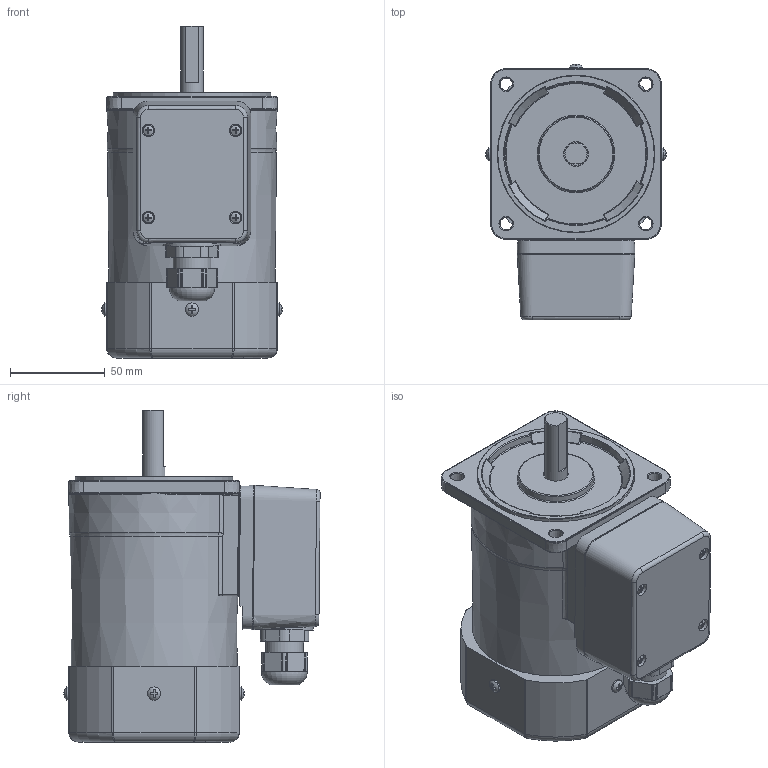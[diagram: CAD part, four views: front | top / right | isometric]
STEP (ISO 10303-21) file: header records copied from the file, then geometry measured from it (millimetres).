
FILE_DESCRIPTION (( 'STEP AP214' ), '1' );
FILE_NAME ('9IDD¤±-90F-AT.STEP', '2025-01-13T02:55:17', ( '' ), ( '' ), 'SwSTEP 2.0', 'SolidWorks 2024', '' );
FILE_SCHEMA (( 'AUTOMOTIVE_DESIGN' ));
Length unit declared in the file: millimetre
Products named in the file (3): 9IDDㅁ-90F; TB6276; 9IDDㅁ-90F-AT
Assembly tree (2 placements, depth 2):
  9IDDㅁ-90F-AT
    9IDDㅁ-90F
    TB6276
Bounding box: 95.09 x 134.99 x 175 mm (x, y, z)
Volume: 1112008.8 mm3; surface area: 85548.7 mm2
Topology: 2 solids, 2 shells, 576 faces, 1496 edges, 958 vertices
Faces by surface type: plane 241, cylinder 203, bspline 50, torus 39, cone 33, sphere 10
Full cylindrical faces by diameter (mm): 5.5 x4, 6.1 x1, 6.5 x4, 6.6 x4, 7 x4, 8 x1, 12 x1, 13 x2, 20 x1, 83.1 x1
Entity records: 20768 total; most frequent: CARTESIAN_POINT 7132, ORIENTED_EDGE 2812, DIRECTION 2800, EDGE_CURVE 1406, AXIS2_PLACEMENT_3D 1086, VERTEX_POINT 938, EDGE_LOOP 688, LINE 628
